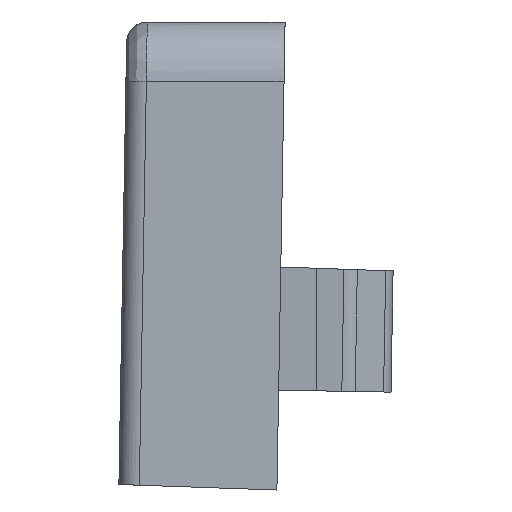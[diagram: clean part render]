
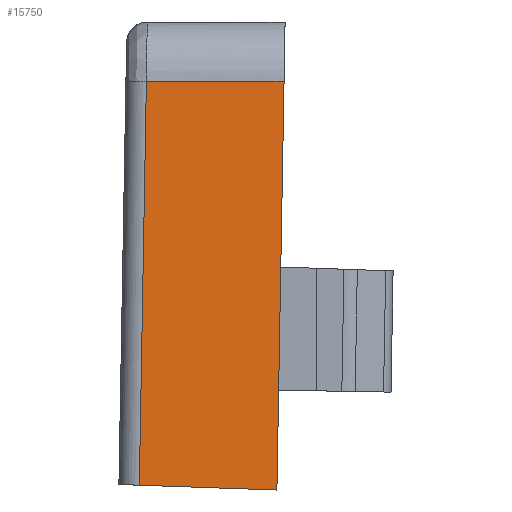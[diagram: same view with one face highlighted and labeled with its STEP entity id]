
A CAD part, front view. The second image highlights one B-rep face of the part: STEP entity #15750.
In plain terms, the highlighted planar face has unit normal (-0.017, -0.999, 0.052) as drawn and (0.018, 0.998, 0.052) by its records, which use the part's own axes.
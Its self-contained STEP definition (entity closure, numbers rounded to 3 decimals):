
#290=CARTESIAN_POINT('',(430.701,31.,
-8.038));
#300=VERTEX_POINT('',#290);
#330=CARTESIAN_POINT('',(430.701,30.67,-1.7));
#340=DIRECTION('',(0.,-0.052,0.999));
#350=VECTOR('',#340,1.);
#360=LINE('',#330,#350);
#370=CARTESIAN_POINT('',(430.701,30.488,
1.79));
#380=VERTEX_POINT('',#370);
#390=EDGE_CURVE('',#300,#380,#360,.T.);
#3070=CARTESIAN_POINT('',(434.009,30.431,
1.732));
#3080=VERTEX_POINT('',#3070);
#3110=CARTESIAN_POINT('',(434.009,30.609,
-1.674));
#3120=DIRECTION('',(0.,0.052,-0.999));
#3130=VECTOR('',#3120,1.);
#3140=LINE('',#3110,#3130);
#3150=CARTESIAN_POINT('',(434.009,30.937,
-7.981));
#3160=VERTEX_POINT('',#3150);
#3170=EDGE_CURVE('',#3080,#3160,#3140,.T.);
#6880=CARTESIAN_POINT('',(433.,30.956,
-7.998));
#6890=DIRECTION('',(1.,-0.019,
0.017));
#6900=VECTOR('',#6890,1.);
#6910=LINE('',#6880,#6900);
#6920=EDGE_CURVE('',#300,#3160,#6910,.T.);
#15590=CARTESIAN_POINT('',(433.,30.374,
3.171));
#15600=DIRECTION('',(-0.018,-0.998,
-0.052));
#15610=DIRECTION('',(1.,-0.018,
0.));
#15620=AXIS2_PLACEMENT_3D('',#15590,#15600,#15610);
#15630=PLANE('',#15620);
#15640=ORIENTED_EDGE('',*,*,#390,.T.);
#15650=ORIENTED_EDGE('',*,*,#6920,.F.);
#15660=ORIENTED_EDGE('',*,*,#3170,.T.);
#15670=CARTESIAN_POINT('',(433.027,30.448,
1.749));
#15680=DIRECTION('',(-1.,0.017,
0.017));
#15690=VECTOR('',#15680,1.);
#15700=LINE('',#15670,#15690);
#15710=EDGE_CURVE('',#3080,#380,#15700,.T.);
#15720=ORIENTED_EDGE('',*,*,#15710,.F.);
#15730=EDGE_LOOP('',(#15720,#15660,#15650,#15640));
#15740=FACE_OUTER_BOUND('',#15730,.T.);
#15750=ADVANCED_FACE('',(#15740),#15630,.F.);
